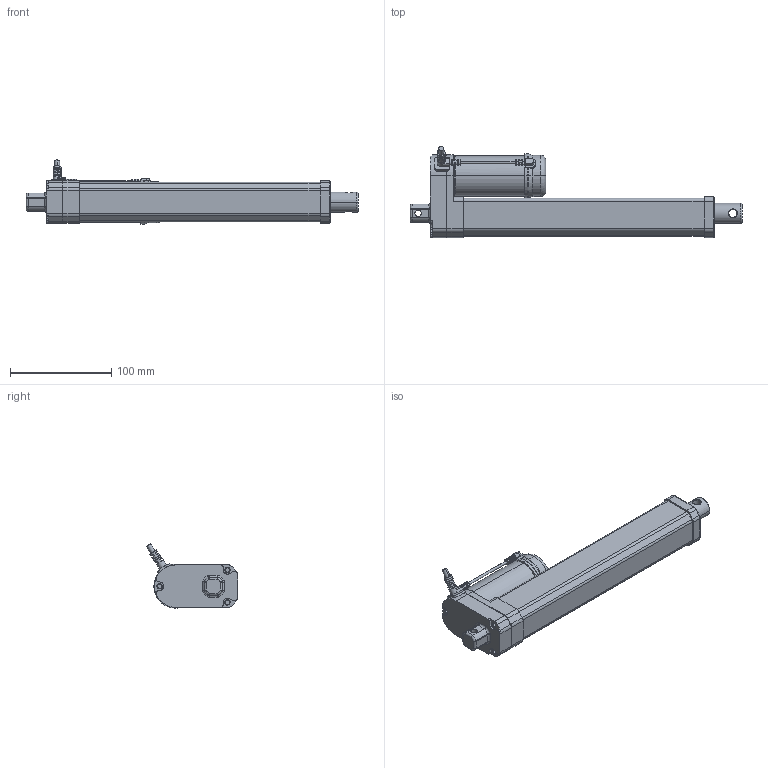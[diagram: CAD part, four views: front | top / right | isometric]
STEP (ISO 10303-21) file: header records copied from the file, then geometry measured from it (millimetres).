
FILE_DESCRIPTION((''),' ');
FILE_NAME('dszy11_200_hs2.stp',' ',('r'),('r'),' ','ACIS 14.0',' ');
FILE_SCHEMA(('automotive_design'));
Length unit declared in the file: inch
Products named in the file (3): DSZY11-HS2-200
Bounding box: 328 x 90.06 x 63.59 mm (x, y, z)
Volume: 286590 mm3; surface area: 131639.8 mm2
Topology: 3 solids, 3 shells, 466 faces, 1239 edges, 804 vertices
Faces by surface type: plane 213, cylinder 175, torus 41, cone 23, bspline 10, sphere 4
Entity records: 18855 total; most frequent: CARTESIAN_POINT 3102, DIRECTION 2630, ORIENTED_EDGE 2466, EDGE_CURVE 1233, AXIS2_PLACEMENT_3D 1011, VERTEX_POINT 804, LINE 608, VECTOR 608
